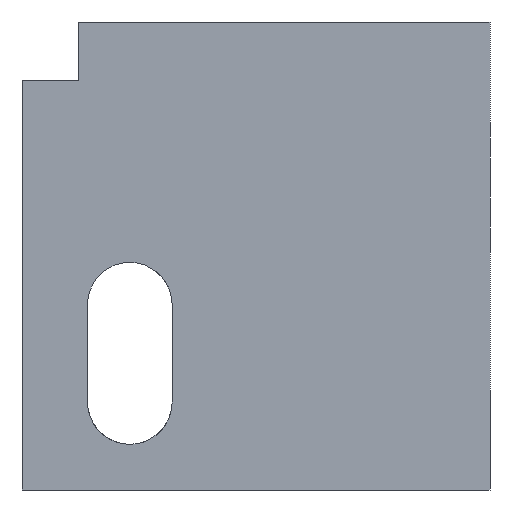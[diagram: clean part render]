
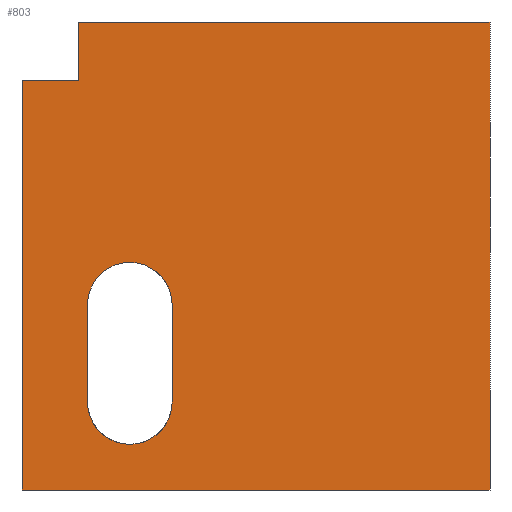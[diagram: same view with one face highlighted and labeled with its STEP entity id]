
A CAD part, left-side view. The second image highlights one B-rep face of the part: STEP entity #803.
In plain terms, the highlighted planar face has unit normal (-1, 0, 0).
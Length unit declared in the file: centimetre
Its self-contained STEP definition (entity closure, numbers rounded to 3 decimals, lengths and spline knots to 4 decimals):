
#11 = VERTEX_POINT ( 'NONE', #744 ) ;
#17 = CARTESIAN_POINT ( 'NONE',  ( 0., 1000., 0. ) ) ;
#64 = VERTEX_POINT ( 'NONE', #693 ) ;
#89 = EDGE_LOOP ( 'NONE', ( #840, #319, #1096, #499, #251, #806 ) ) ;
#90 = CARTESIAN_POINT ( 'NONE',  ( 0., 0., 1000. ) ) ;
#95 = CARTESIAN_POINT ( 'NONE',  ( 0., 769.6761, 188.1058 ) ) ;
#114 = ORIENTED_EDGE ( 'NONE', *, *, #918, .T. ) ;
#118 = CARTESIAN_POINT ( 'NONE',  ( 0., 1000., 1000. ) ) ;
#121 = CARTESIAN_POINT ( 'NONE',  ( 0., 769.6761, 188.1058 ) ) ;
#124 = EDGE_CURVE ( 'NONE', #211, #613, #605, .T. ) ;
#160 = VERTEX_POINT ( 'NONE', #350 ) ;
#173 = VECTOR ( 'NONE', #886, 100. ) ;
#188 = CARTESIAN_POINT ( 'NONE',  ( 0., 1000., 1000. ) ) ;
#195 = DIRECTION ( 'NONE',  ( 0., 0., 1. ) ) ;
#198 = ORIENTED_EDGE ( 'NONE', *, *, #406, .T. ) ;
#204 = LINE ( 'NONE', #17, #1017 ) ;
#211 = VERTEX_POINT ( 'NONE', #647 ) ;
#225 = VECTOR ( 'NONE', #967, 100. ) ;
#251 = ORIENTED_EDGE ( 'NONE', *, *, #347, .F. ) ;
#270 = DIRECTION ( 'NONE',  ( 0., 0., 1. ) ) ;
#276 = VECTOR ( 'NONE', #960, 100. ) ;
#286 = DIRECTION ( 'NONE',  ( 1., 0., 0. ) ) ;
#296 = VERTEX_POINT ( 'NONE', #809 ) ;
#319 = ORIENTED_EDGE ( 'NONE', *, *, #668, .F. ) ;
#347 = EDGE_CURVE ( 'NONE', #795, #977, #901, .T. ) ;
#350 = CARTESIAN_POINT ( 'NONE',  ( 0., 679.2014, 188.1058 ) ) ;
#364 = CARTESIAN_POINT ( 'NONE',  ( 0., 879.7665, 1000. ) ) ;
#366 = ORIENTED_EDGE ( 'NONE', *, *, #1063, .T. ) ;
#379 = CARTESIAN_POINT ( 'NONE',  ( 0., 879.7665, 874.9218 ) ) ;
#406 = EDGE_CURVE ( 'NONE', #463, #160, #486, .T. ) ;
#421 = DIRECTION ( 'NONE',  ( 1., 0., 0. ) ) ;
#426 = DIRECTION ( 'NONE',  ( 1., 0., 0. ) ) ;
#443 = FACE_OUTER_BOUND ( 'NONE', #89, .T. ) ;
#456 = CARTESIAN_POINT ( 'NONE',  ( 0., 0., 0. ) ) ;
#463 = VERTEX_POINT ( 'NONE', #481 ) ;
#465 = EDGE_CURVE ( 'NONE', #600, #795, #758, .T. ) ;
#478 = DIRECTION ( 'NONE',  ( 0., 0., 1. ) ) ;
#481 = CARTESIAN_POINT ( 'NONE',  ( 0., 679.2014, 395.9129 ) ) ;
#483 = CIRCLE ( 'NONE', #999, 90.4747 ) ;
#486 = LINE ( 'NONE', #843, #748 ) ;
#499 = ORIENTED_EDGE ( 'NONE', *, *, #943, .T. ) ;
#530 = LINE ( 'NONE', #962, #173 ) ;
#544 = CARTESIAN_POINT ( 'NONE',  ( 0., 1000., 0. ) ) ;
#562 = EDGE_LOOP ( 'NONE', ( #198, #980, #801, #114, #366 ) ) ;
#563 = DIRECTION ( 'NONE',  ( 1., 0., 0. ) ) ;
#576 = VECTOR ( 'NONE', #722, 100. ) ;
#584 = FACE_BOUND ( 'NONE', #562, .T. ) ;
#590 = PLANE ( 'NONE',  #751 ) ;
#600 = VERTEX_POINT ( 'NONE', #364 ) ;
#605 = LINE ( 'NONE', #118, #276 ) ;
#613 = VERTEX_POINT ( 'NONE', #544 ) ;
#629 = DIRECTION ( 'NONE',  ( 0., 0., 1. ) ) ;
#632 = CIRCLE ( 'NONE', #771, 90.4747 ) ;
#642 = CARTESIAN_POINT ( 'NONE',  ( 0., 0., 1000. ) ) ;
#647 = CARTESIAN_POINT ( 'NONE',  ( 0., 1000., 874.9218 ) ) ;
#650 = VERTEX_POINT ( 'NONE', #379 ) ;
#668 = EDGE_CURVE ( 'NONE', #211, #650, #716, .T. ) ;
#671 = CARTESIAN_POINT ( 'NONE',  ( 0., 1000., 1000. ) ) ;
#681 = DIRECTION ( 'NONE',  ( 0., 0., -1. ) ) ;
#693 = CARTESIAN_POINT ( 'NONE',  ( 0., 769.6761, 97.6311 ) ) ;
#716 = LINE ( 'NONE', #1057, #225 ) ;
#722 = DIRECTION ( 'NONE',  ( 0., 0., -1. ) ) ;
#744 = CARTESIAN_POINT ( 'NONE',  ( 0., 860.1508, 395.9129 ) ) ;
#748 = VECTOR ( 'NONE', #1103, 100. ) ;
#751 = AXIS2_PLACEMENT_3D ( 'NONE', #188, #421, #681 ) ;
#758 = LINE ( 'NONE', #671, #784 ) ;
#760 = AXIS2_PLACEMENT_3D ( 'NONE', #903, #563, #478 ) ;
#771 = AXIS2_PLACEMENT_3D ( 'NONE', #121, #286, #195 ) ;
#780 = LINE ( 'NONE', #786, #839 ) ;
#784 = VECTOR ( 'NONE', #819, 100. ) ;
#786 = CARTESIAN_POINT ( 'NONE',  ( 0., 879.7665, 874.9218 ) ) ;
#795 = VERTEX_POINT ( 'NONE', #90 ) ;
#801 = ORIENTED_EDGE ( 'NONE', *, *, #934, .T. ) ;
#803 = ADVANCED_FACE ( 'NONE', ( #584, #443 ), #590, .F. ) ;
#806 = ORIENTED_EDGE ( 'NONE', *, *, #465, .F. ) ;
#809 = CARTESIAN_POINT ( 'NONE',  ( 0., 860.1508, 188.1058 ) ) ;
#819 = DIRECTION ( 'NONE',  ( 0., -1., 0. ) ) ;
#839 = VECTOR ( 'NONE', #629, 100. ) ;
#840 = ORIENTED_EDGE ( 'NONE', *, *, #1041, .F. ) ;
#843 = CARTESIAN_POINT ( 'NONE',  ( 0., 679.2014, 188.1058 ) ) ;
#866 = EDGE_CURVE ( 'NONE', #160, #64, #483, .T. ) ;
#871 = DIRECTION ( 'NONE',  ( 0., -1., 0. ) ) ;
#886 = DIRECTION ( 'NONE',  ( 0., 0., 1. ) ) ;
#887 = CIRCLE ( 'NONE', #760, 90.4747 ) ;
#901 = LINE ( 'NONE', #642, #576 ) ;
#903 = CARTESIAN_POINT ( 'NONE',  ( 0., 769.6761, 395.9129 ) ) ;
#918 = EDGE_CURVE ( 'NONE', #296, #11, #530, .T. ) ;
#934 = EDGE_CURVE ( 'NONE', #64, #296, #632, .T. ) ;
#943 = EDGE_CURVE ( 'NONE', #613, #977, #204, .T. ) ;
#960 = DIRECTION ( 'NONE',  ( 0., 0., -1. ) ) ;
#962 = CARTESIAN_POINT ( 'NONE',  ( 0., 860.1508, 395.9129 ) ) ;
#967 = DIRECTION ( 'NONE',  ( 0., -1., 0. ) ) ;
#977 = VERTEX_POINT ( 'NONE', #456 ) ;
#980 = ORIENTED_EDGE ( 'NONE', *, *, #866, .T. ) ;
#999 = AXIS2_PLACEMENT_3D ( 'NONE', #95, #426, #270 ) ;
#1017 = VECTOR ( 'NONE', #871, 100. ) ;
#1041 = EDGE_CURVE ( 'NONE', #650, #600, #780, .T. ) ;
#1057 = CARTESIAN_POINT ( 'NONE',  ( 0., 879.7665, 874.9218 ) ) ;
#1063 = EDGE_CURVE ( 'NONE', #11, #463, #887, .T. ) ;
#1096 = ORIENTED_EDGE ( 'NONE', *, *, #124, .T. ) ;
#1103 = DIRECTION ( 'NONE',  ( 0., 0., -1. ) ) ;
